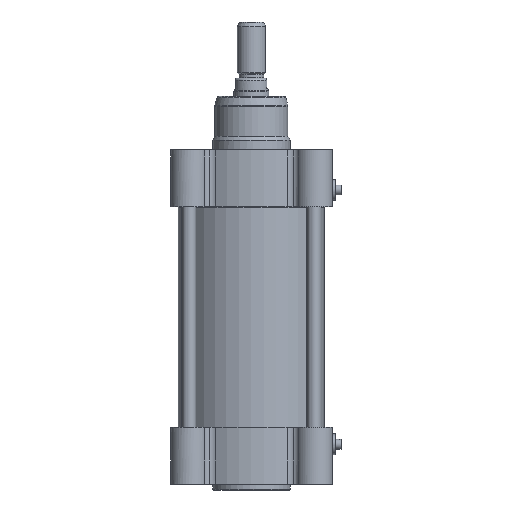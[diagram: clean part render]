
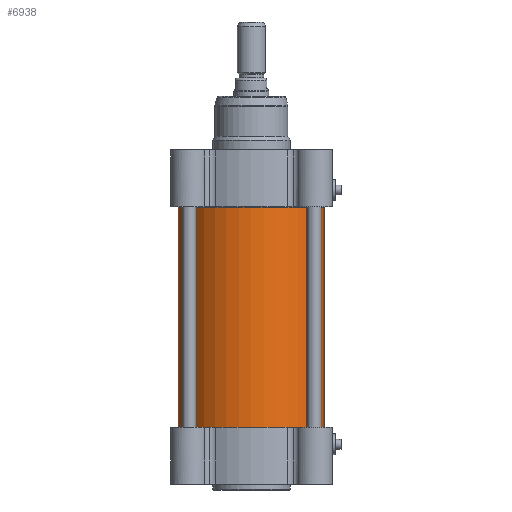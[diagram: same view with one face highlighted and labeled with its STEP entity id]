
A CAD part, front view. The second image highlights one B-rep face of the part: STEP entity #6938.
In plain terms, the highlighted cylindrical face has radius 52 mm (diameter 104 mm), a partial arc.
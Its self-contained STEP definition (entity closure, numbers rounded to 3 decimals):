
#405 = DIRECTION ( 'NONE',  ( 0., 0., -1. ) ) ;
#536 = CIRCLE ( 'NONE', #20005, 52. ) ;
#1219 = ORIENTED_EDGE ( 'NONE', *, *, #15176, .T. ) ;
#1494 = DIRECTION ( 'NONE',  ( -1., 0., 0. ) ) ;
#1773 = VERTEX_POINT ( 'NONE', #26263 ) ;
#6282 = EDGE_CURVE ( 'NONE', #12794, #14404, #19904, .T. ) ;
#6499 = EDGE_CURVE ( 'NONE', #14404, #1773, #13168, .T. ) ;
#6938 = ADVANCED_FACE ( 'NONE', ( #32019 ), #24757, .T. ) ;
#7550 = EDGE_CURVE ( 'NONE', #24473, #12794, #536, .T. ) ;
#8330 = CARTESIAN_POINT ( 'NONE',  ( 0., 0., 0.2 ) ) ;
#8678 = CARTESIAN_POINT ( 'NONE',  ( 0., 0., 156.8 ) ) ;
#9156 = DIRECTION ( 'NONE',  ( -1., 0., 0. ) ) ;
#10087 = CARTESIAN_POINT ( 'NONE',  ( 52., 0., 0.2 ) ) ;
#12740 = ORIENTED_EDGE ( 'NONE', *, *, #6282, .F. ) ;
#12794 = VERTEX_POINT ( 'NONE', #14697 ) ;
#13168 = CIRCLE ( 'NONE', #13684, 52. ) ;
#13595 = DIRECTION ( 'NONE',  ( 0., 0., 1. ) ) ;
#13684 = AXIS2_PLACEMENT_3D ( 'NONE', #8678, #26785, #9156 ) ;
#14404 = VERTEX_POINT ( 'NONE', #31067 ) ;
#14697 = CARTESIAN_POINT ( 'NONE',  ( -52., 0., 0.2 ) ) ;
#14749 = AXIS2_PLACEMENT_3D ( 'NONE', #19314, #29370, #1494 ) ;
#15176 = EDGE_CURVE ( 'NONE', #24473, #1773, #21164, .T. ) ;
#18385 = DIRECTION ( 'NONE',  ( -1., 0., 0. ) ) ;
#18540 = CARTESIAN_POINT ( 'NONE',  ( 52., 0., 0. ) ) ;
#19314 = CARTESIAN_POINT ( 'NONE',  ( 0., 0., 0. ) ) ;
#19904 = LINE ( 'NONE', #22054, #25334 ) ;
#20005 = AXIS2_PLACEMENT_3D ( 'NONE', #8330, #405, #18385 ) ;
#21164 = LINE ( 'NONE', #18540, #25502 ) ;
#22054 = CARTESIAN_POINT ( 'NONE',  ( -52., 0., 0. ) ) ;
#22076 = ORIENTED_EDGE ( 'NONE', *, *, #7550, .F. ) ;
#24473 = VERTEX_POINT ( 'NONE', #10087 ) ;
#24757 = CYLINDRICAL_SURFACE ( 'NONE', #14749, 52. ) ;
#25334 = VECTOR ( 'NONE', #27475, 1000. ) ;
#25502 = VECTOR ( 'NONE', #13595, 1000. ) ;
#26263 = CARTESIAN_POINT ( 'NONE',  ( 52., 0., 156.8 ) ) ;
#26785 = DIRECTION ( 'NONE',  ( 0., 0., 1. ) ) ;
#27475 = DIRECTION ( 'NONE',  ( 0., 0., 1. ) ) ;
#28466 = EDGE_LOOP ( 'NONE', ( #22076, #1219, #28615, #12740 ) ) ;
#28615 = ORIENTED_EDGE ( 'NONE', *, *, #6499, .F. ) ;
#29370 = DIRECTION ( 'NONE',  ( 0., 0., 1. ) ) ;
#31067 = CARTESIAN_POINT ( 'NONE',  ( -52., 0., 156.8 ) ) ;
#32019 = FACE_OUTER_BOUND ( 'NONE', #28466, .T. ) ;
